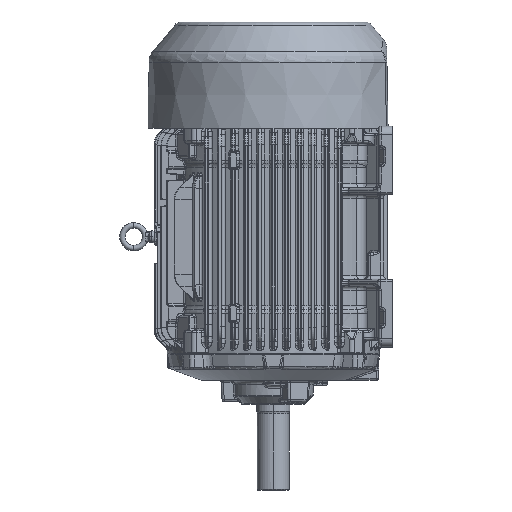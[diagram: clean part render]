
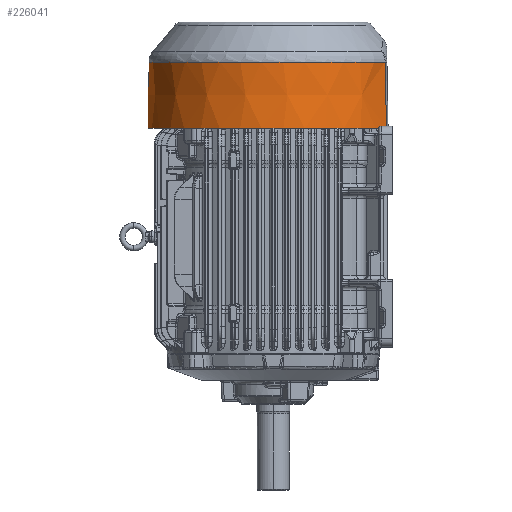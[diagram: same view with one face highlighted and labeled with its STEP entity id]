
A CAD part, left-side view. The second image highlights one B-rep face of the part: STEP entity #226041.
In plain terms, the highlighted conical face has half-angle 1 degrees and reference radius 186.45 mm.
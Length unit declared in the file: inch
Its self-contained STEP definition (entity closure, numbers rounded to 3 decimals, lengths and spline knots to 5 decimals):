
#221583=CARTESIAN_POINT('',(-3.18358,-6.65203,0.));
#221595=CARTESIAN_POINT('',(3.18358,-6.65203,0.));
#221601=CARTESIAN_POINT('',(-3.1703,-6.58293,
-3.89947));
#221602=CARTESIAN_POINT('',(-3.1714,-6.58868,
-3.5753));
#221603=CARTESIAN_POINT('',(-3.17359,-6.60006,
-2.93175));
#221604=CARTESIAN_POINT('',(-3.17676,-6.61656,
-2.00159));
#221605=CARTESIAN_POINT('',(-3.18002,-6.63353,
-1.04416));
#221606=CARTESIAN_POINT('',(-3.18237,-6.64575,
-0.35475));
#221607=CARTESIAN_POINT('',(-3.18358,-6.65203,0.));
#221609=CARTESIAN_POINT('',(0.,0.,-3.89947));
#221610=DIRECTION('',(0.,0.,-1.));
#221611=DIRECTION('',(-0.434,-0.901,0.));
#221612=AXIS2_PLACEMENT_3D('',#221609,#221610,#221611);
#221614=CARTESIAN_POINT('',(3.18358,-6.65203,0.));
#221615=CARTESIAN_POINT('',(3.18257,-6.6468,
-0.29543));
#221616=CARTESIAN_POINT('',(3.18052,-6.6361,
-0.89887));
#221617=CARTESIAN_POINT('',(3.17734,-6.61956,
-1.83244));
#221618=CARTESIAN_POINT('',(3.17396,-6.60201,
-2.82247));
#221619=CARTESIAN_POINT('',(3.17154,-6.58941,
-3.53279));
#221620=CARTESIAN_POINT('',(3.17029,-6.58291,
-3.89947));
#221622=CARTESIAN_POINT('',(0.,0.,0.));
#221623=DIRECTION('',(0.,0.,1.));
#221624=DIRECTION('',(0.432,-0.902,0.));
#221625=AXIS2_PLACEMENT_3D('',#221622,#221623,#221624);
#225050=VERTEX_POINT('',#221583);
#225053=VERTEX_POINT('',#221601);
#225060=CARTESIAN_POINT('',(3.17019,-6.58296,
-3.89947));
#225061=VERTEX_POINT('',#225060);
#225063=VERTEX_POINT('',#221595);
#226029=CARTESIAN_POINT('',(0.,0.,-1.94973));
#226030=DIRECTION('',(0.,0.,1.));
#226031=DIRECTION('',(0.,1.,0.));
#226032=AXIS2_PLACEMENT_3D('',#226029,#226030,#226031);
#226033=CONICAL_SURFACE('',#226032,7.34057,1.);
#226034=ORIENTED_EDGE('',*,*,#226010,.F.);
#226035=ORIENTED_EDGE('',*,*,#225888,.T.);
#226037=ORIENTED_EDGE('',*,*,#226036,.F.);
#226038=ORIENTED_EDGE('',*,*,#226021,.T.);
#226039=EDGE_LOOP('',(#226034,#226035,#226037,#226038));
#226040=FACE_OUTER_BOUND('',#226039,.F.);
#226041=ADVANCED_FACE('',(#226040),#226033,.T.);
#221608=B_SPLINE_CURVE_WITH_KNOTS('',3,(#221601,#221602,#221603,#221604,#221605,
#221606,#221607),.UNSPECIFIED.,.F.,.F.,(4,1,1,1,4),(0.,0.25,0.5,0.75,
1.),.UNSPECIFIED.);
#221613=CIRCLE('',#221612,7.30653);
#221621=B_SPLINE_CURVE_WITH_KNOTS('',3,(#221614,#221615,#221616,#221617,#221618,
#221619,#221620),.UNSPECIFIED.,.F.,.F.,(4,1,1,1,4),(0.,0.25,0.5,0.75,
1.),.UNSPECIFIED.);
#221626=CIRCLE('',#221625,7.3746);
#225888=EDGE_CURVE('',#225053,#225061,#221613,.T.);
#226010=EDGE_CURVE('',#225053,#225050,#221608,.T.);
#226021=EDGE_CURVE('',#225063,#225050,#221626,.T.);
#226036=EDGE_CURVE('',#225063,#225061,#221621,.T.);
